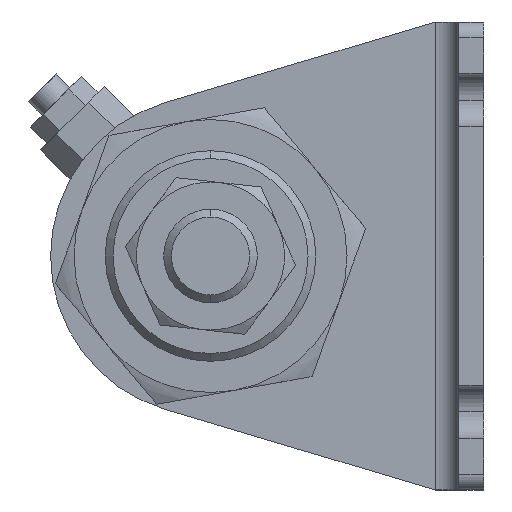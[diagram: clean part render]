
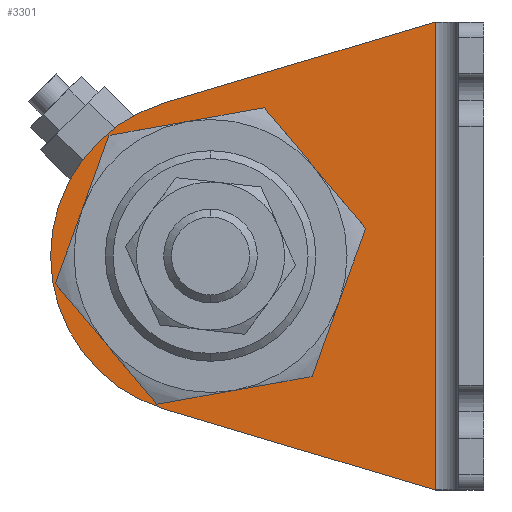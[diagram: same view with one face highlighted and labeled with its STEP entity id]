
A CAD part, left-side view. The second image highlights one B-rep face of the part: STEP entity #3301.
In plain terms, the highlighted planar face has unit normal (-1, 0, 0) as drawn and (1, 0, 0) by its records, which use the part's own axes.
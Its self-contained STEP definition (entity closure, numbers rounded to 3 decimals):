
#102 = CARTESIAN_POINT ( 'NONE',  ( 3.2, 19.903, -4.094 ) ) ;
#142 = VERTEX_POINT ( 'NONE', #1834 ) ;
#249 = AXIS2_PLACEMENT_3D ( 'NONE', #1734, #4972, #697 ) ;
#340 = DIRECTION ( 'NONE',  ( 0., 1., 0. ) ) ;
#370 = VECTOR ( 'NONE', #4367, 1000. ) ;
#697 = DIRECTION ( 'NONE',  ( 0., 1., 0. ) ) ;
#818 = CARTESIAN_POINT ( 'NONE',  ( 3.2, 48.5, -30. ) ) ;
#895 = ORIENTED_EDGE ( 'NONE', *, *, #4815, .T. ) ;
#981 = PLANE ( 'NONE',  #249 ) ;
#995 = VERTEX_POINT ( 'NONE', #1443 ) ;
#1246 = DIRECTION ( 'NONE',  ( 0., 1., 0. ) ) ;
#1376 = ORIENTED_EDGE ( 'NONE', *, *, #2251, .T. ) ;
#1441 = DIRECTION ( 'NONE',  ( 1., 0., 0. ) ) ;
#1443 = CARTESIAN_POINT ( 'NONE',  ( 3.2, 40.868, -49.642 ) ) ;
#1548 = DIRECTION ( 'NONE',  ( 0., 0.958, 0.286 ) ) ;
#1610 = DIRECTION ( 'NONE',  ( 1., 0., 0. ) ) ;
#1611 = AXIS2_PLACEMENT_3D ( 'NONE', #3667, #5223, #3774 ) ;
#1734 = CARTESIAN_POINT ( 'NONE',  ( 3.2, 3.2, -60. ) ) ;
#1834 = CARTESIAN_POINT ( 'NONE',  ( 3.2, 6.2, -60. ) ) ;
#1848 = EDGE_LOOP ( 'NONE', ( #3194, #1860 ) ) ;
#1856 = LINE ( 'NONE', #2985, #5598 ) ;
#1860 = ORIENTED_EDGE ( 'NONE', *, *, #3587, .F. ) ;
#1971 = CARTESIAN_POINT ( 'NONE',  ( 3.2, 6.2, 0. ) ) ;
#2102 = DIRECTION ( 'NONE',  ( 1., 0., 0. ) ) ;
#2114 = EDGE_CURVE ( 'NONE', #2520, #4634, #4926, .T. ) ;
#2241 = CIRCLE ( 'NONE', #5272, 13.5 ) ;
#2251 = EDGE_CURVE ( 'NONE', #4550, #4634, #3698, .T. ) ;
#2325 = FACE_BOUND ( 'NONE', #1848, .T. ) ;
#2480 = CIRCLE ( 'NONE', #5343, 20.5 ) ;
#2520 = VERTEX_POINT ( 'NONE', #1971 ) ;
#2550 = CARTESIAN_POINT ( 'NONE',  ( 3.2, 55.5, -30. ) ) ;
#2589 = CARTESIAN_POINT ( 'NONE',  ( 3.2, 35., -30. ) ) ;
#2731 = EDGE_LOOP ( 'NONE', ( #5575, #5204, #1376, #5483, #895 ) ) ;
#2972 = EDGE_CURVE ( 'NONE', #5294, #5642, #3429, .T. ) ;
#2985 = CARTESIAN_POINT ( 'NONE',  ( 3.2, 3.446, -60.823 ) ) ;
#3029 = DIRECTION ( 'NONE',  ( 0., 1., 0. ) ) ;
#3193 = CARTESIAN_POINT ( 'NONE',  ( 3.2, 21.5, -30. ) ) ;
#3194 = ORIENTED_EDGE ( 'NONE', *, *, #2972, .F. ) ;
#3301 = ADVANCED_FACE ( 'NONE', ( #2325, #4554 ), #981, .T. ) ;
#3414 = LINE ( 'NONE', #5509, #370 ) ;
#3429 = CIRCLE ( 'NONE', #4338, 13.5 ) ;
#3587 = EDGE_CURVE ( 'NONE', #5642, #5294, #2241, .T. ) ;
#3667 = CARTESIAN_POINT ( 'NONE',  ( 3.2, 35., -30. ) ) ;
#3698 = CIRCLE ( 'NONE', #1611, 20.5 ) ;
#3745 = DIRECTION ( 'NONE',  ( 0., 0.958, -0.286 ) ) ;
#3774 = DIRECTION ( 'NONE',  ( 0., 1., 0. ) ) ;
#3815 = CARTESIAN_POINT ( 'NONE',  ( 3.2, 35., -30. ) ) ;
#3956 = CARTESIAN_POINT ( 'NONE',  ( 3.2, 35., -30. ) ) ;
#4338 = AXIS2_PLACEMENT_3D ( 'NONE', #3956, #2102, #3029 ) ;
#4367 = DIRECTION ( 'NONE',  ( 0., 0., -1. ) ) ;
#4550 = VERTEX_POINT ( 'NONE', #2550 ) ;
#4554 = FACE_OUTER_BOUND ( 'NONE', #2731, .T. ) ;
#4634 = VERTEX_POINT ( 'NONE', #5313 ) ;
#4815 = EDGE_CURVE ( 'NONE', #2520, #142, #3414, .T. ) ;
#4926 = LINE ( 'NONE', #102, #5480 ) ;
#4972 = DIRECTION ( 'NONE',  ( 1., 0., 0. ) ) ;
#5101 = EDGE_CURVE ( 'NONE', #142, #995, #1856, .T. ) ;
#5110 = EDGE_CURVE ( 'NONE', #995, #4550, #2480, .T. ) ;
#5204 = ORIENTED_EDGE ( 'NONE', *, *, #5110, .T. ) ;
#5223 = DIRECTION ( 'NONE',  ( 1., 0., 0. ) ) ;
#5272 = AXIS2_PLACEMENT_3D ( 'NONE', #2589, #1610, #1246 ) ;
#5294 = VERTEX_POINT ( 'NONE', #818 ) ;
#5313 = CARTESIAN_POINT ( 'NONE',  ( 3.2, 40.868, -10.358 ) ) ;
#5343 = AXIS2_PLACEMENT_3D ( 'NONE', #3815, #1441, #340 ) ;
#5480 = VECTOR ( 'NONE', #3745, 1000. ) ;
#5483 = ORIENTED_EDGE ( 'NONE', *, *, #2114, .F. ) ;
#5509 = CARTESIAN_POINT ( 'NONE',  ( 3.2, 6.2, -60. ) ) ;
#5575 = ORIENTED_EDGE ( 'NONE', *, *, #5101, .T. ) ;
#5598 = VECTOR ( 'NONE', #1548, 1000. ) ;
#5642 = VERTEX_POINT ( 'NONE', #3193 ) ;
